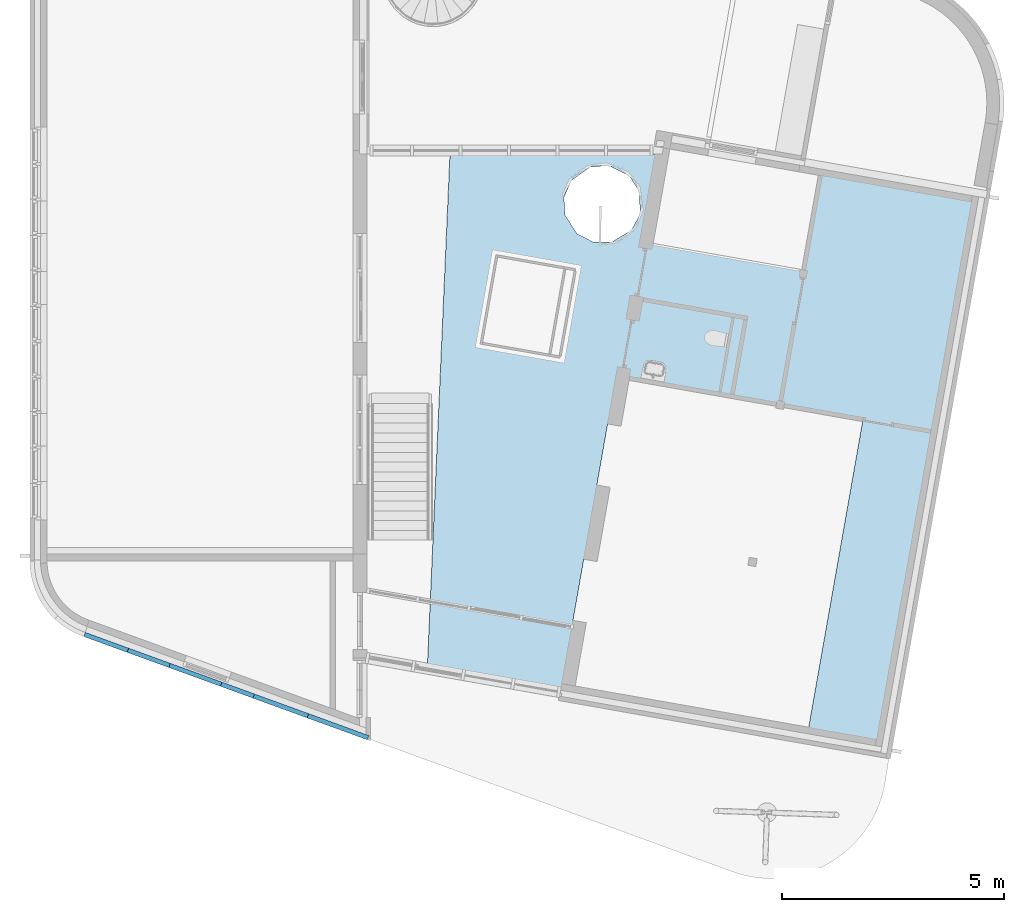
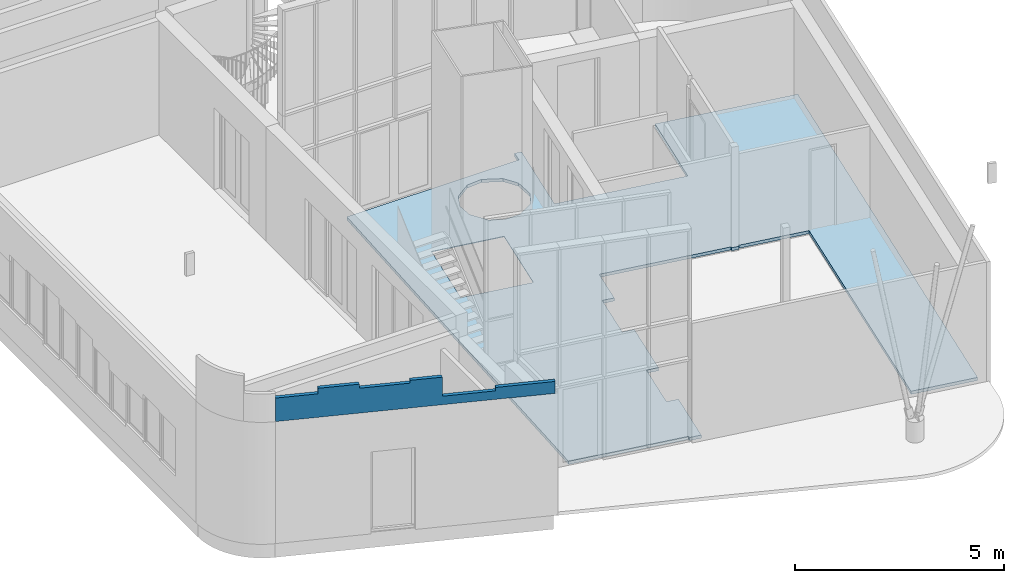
# One storey, part 15 of 21: 1 slab, 1 wall.
"""IFC2X3 building model written with IfcOpenShell, lengths in millimetres."""

import ifcopenshell
import ifcopenshell.guid

model = None  # the IFC model being written
_history = None  # IfcOwnerHistory: only IFC2X3 demands one
_inside = {}  # id of a spatial element -> (the spatial element, [elements in it])
_under = {}  # id of a project, library or spatial element -> (it, [spatial elements below it])
_declared = {}  # id of a project -> (the project, [libraries it declares])
_typed = {}  # id of a type object -> (the type object, [elements of that type])
_made_of = {}  # id of a material, layer set ... -> (it, [elements and type objects made of it])


def new_model(schema):
    """Start an empty IFC model of exactly this schema.

    Asked for "IFC4X3", IfcOpenShell would pick the latest addendum, in which some entities
    have other attributes; the version numbers below select the first issue.
    IFC2X3 requires an IfcOwnerHistory on every rooted entity: one is made here for all.
    """
    global model, _history
    if schema == "IFC4X3":
        model = ifcopenshell.file(schema_version=(4, 3, 0, 0))
    else:
        model = ifcopenshell.file(schema=schema)
    _inside.clear()
    _under.clear()
    _declared.clear()
    _typed.clear()
    _made_of.clear()
    _history = None
    if model.schema == "IFC2X3":
        org = make("IfcOrganization", Name="unknown")
        user = make(
            "IfcPersonAndOrganization",
            ThePerson=make("IfcPerson", FamilyName="unknown"),
            TheOrganization=org,
        )
        app = make(
            "IfcApplication",
            ApplicationDeveloper=org,
            Version="unknown",
            ApplicationFullName="unknown",
            ApplicationIdentifier="unknown",
        )
        _history = make(
            "IfcOwnerHistory",
            OwningUser=user,
            OwningApplication=app,
            ChangeAction="ADDED",
            CreationDate=0,
        )
    return model


def make(cls, **values):
    """One entity of the class cls with the attributes given. An attribute that is None is left unset."""
    return model.create_entity(
        cls, **{name: value for name, value in values.items() if value is not None}
    )


def entity(cls, *values):
    """Any entity or typed value of the class cls, its attributes in the order of the schema. None: left unset."""
    e = model.create_entity(cls)
    for i, value in enumerate(values):
        if value is not None:
            e[i] = value
    return e


def rooted(cls, **values):
    """An entity with a GlobalId (a new one), such as an element, a storey or a relation."""
    return make(cls, GlobalId=ifcopenshell.guid.new(), OwnerHistory=_history, **values)


def si_unit(unit_type, name, prefix=None):
    """IfcSIUnit, for example si_unit("LENGTHUNIT", "METRE", prefix="MILLI")."""
    return make("IfcSIUnit", UnitType=unit_type, Prefix=prefix, Name=name)


def converted_unit(unit_type, name, factor, base, dimensions=None, offset=None):
    """IfcConversionBasedUnit, such as the inch: factor (a typed value) times the base unit."""
    return make(
        "IfcConversionBasedUnit"
        if offset is None
        else "IfcConversionBasedUnitWithOffset",
        ConversionOffset=offset,
        Dimensions=None
        if dimensions is None
        else entity("IfcDimensionalExponents", *dimensions),
        UnitType=unit_type,
        Name=name,
        ConversionFactor=make(
            "IfcMeasureWithUnit", ValueComponent=factor, UnitComponent=base
        ),
    )


def derived_unit(unit_type, elements):
    """IfcDerivedUnit: a product of units, each with its exponent."""
    return make(
        "IfcDerivedUnit",
        Elements=[
            make("IfcDerivedUnitElement", Unit=unit, Exponent=power)
            for unit, power in elements
        ],
        UnitType=unit_type,
    )


def assignment(units):
    """IfcUnitAssignment: the units of a project."""
    return None if units is None else make("IfcUnitAssignment", Units=units)


def point(xyz):
    """IfcCartesianPoint."""
    return None if xyz is None else make("IfcCartesianPoint", Coordinates=xyz)


def direction(xyz):
    """IfcDirection."""
    return None if xyz is None else make("IfcDirection", DirectionRatios=xyz)


def frame(location, z_axis=None, x_axis=None):
    """IfcAxis2Placement3D, a coordinate frame: its origin and axes. An axis left out is left unset."""
    return make(
        "IfcAxis2Placement3D",
        Location=point(location),
        Axis=direction(z_axis),
        RefDirection=direction(x_axis),
    )


def origin():
    """The frame at (0, 0, 0) with its axes left unset."""
    return frame((0.0, 0.0, 0.0))


def place(relative_to, where):
    """IfcLocalPlacement: puts the frame where relative to a parent placement (None: the world)."""
    return make(
        "IfcLocalPlacement", PlacementRelTo=relative_to, RelativePlacement=where
    )


def context(
    kind, dimensions, precision=None, world=None, true_north=None, identifier=None
):
    """IfcGeometricRepresentationContext, for example the 3D "Model" context."""
    return make(
        "IfcGeometricRepresentationContext",
        ContextIdentifier=identifier,
        ContextType=kind,
        CoordinateSpaceDimension=dimensions,
        Precision=precision,
        WorldCoordinateSystem=world,
        TrueNorth=true_north,
    )


def subcontext(parent, identifier, kind, view, scale=None):
    """IfcGeometricRepresentationSubContext, for example "Body" below "Model"."""
    return make(
        "IfcGeometricRepresentationSubContext",
        ContextIdentifier=identifier,
        ContextType=kind,
        ParentContext=parent,
        TargetScale=scale,
        TargetView=view,
    )


def project(units=None, contexts=None):
    """IfcProject with its units and contexts."""
    return rooted(
        "IfcProject",
        Name="project",
        RepresentationContexts=contexts,
        UnitsInContext=assignment(units),
    )


def spatial(cls, under=None, at=None, **own):
    """A site, building, storey or space (cls), placed at a placement, below another one or the project."""
    s = rooted(cls, ObjectPlacement=at, **own)
    if under is not None:
        _under.setdefault(under.id(), (under, []))[1].append(s)
    return s


def faces_of(points, faces, orient=None, outer=None):
    """IfcFace entities. A face is a list of loops; a loop is a list of indices into points, from 0.

    orient and outer hold one flag for each loop. By default every Orientation is true, the
    first loop of a face is its IfcFaceOuterBound and the others are IfcFaceBound.
    """
    made = []
    for i, loops in enumerate(faces):
        bounds = []
        for j, loop in enumerate(loops):
            is_outer = j == 0 if outer is None else outer[i][j]
            bounds.append(
                make(
                    "IfcFaceOuterBound" if is_outer else "IfcFaceBound",
                    Bound=make("IfcPolyLoop", Polygon=[points[k] for k in loop]),
                    Orientation=True if orient is None else orient[i][j],
                )
            )
        made.append(make("IfcFace", Bounds=bounds))
    return made


def faceted_brep(points, faces, orient=None, outer=None, voids=None):
    """IfcFacetedBrep: a solid bounded by flat faces; with voids (closed shells), ...WithVoids."""
    shared = [point(p) for p in points]
    hull = make("IfcClosedShell", CfsFaces=faces_of(shared, faces, orient, outer))
    if voids is None:
        return make("IfcFacetedBrep", Outer=hull)
    return make(
        "IfcFacetedBrepWithVoids",
        Outer=hull,
        Voids=[
            make(cls, CfsFaces=faces_of(shared, fs, o, b)) for cls, fs, o, b in voids
        ],
    )


def shape(context_of_items, identifier, shape_type, items):
    """IfcShapeRepresentation: the items that make up one representation, for example the "Body"."""
    return make(
        "IfcShapeRepresentation",
        ContextOfItems=context_of_items,
        RepresentationIdentifier=identifier,
        RepresentationType=shape_type,
        Items=items,
    )


def material(Name=None, Category=None):
    """IfcMaterial."""
    return make("IfcMaterial", Name=Name, Category=Category)


def material_list(materials):
    """IfcMaterialList."""
    return make("IfcMaterialList", Materials=materials)


def layer(
    of_material, thickness, ventilated=None, Name=None, Category=None, Priority=None
):
    """IfcMaterialLayer: one layer of a wall or slab, of a material (None: an air gap)."""
    return make(
        "IfcMaterialLayer",
        Material=of_material,
        LayerThickness=thickness,
        IsVentilated=ventilated,
        Name=Name,
        Category=Category,
        Priority=Priority,
    )


def layer_set(layers, Name=None):
    """IfcMaterialLayerSet."""
    return make("IfcMaterialLayerSet", MaterialLayers=layers, LayerSetName=Name)


def made_of(thing, what):
    """Note that an element or type object is made of a material, layer set ...; save() writes the relation."""
    if what is not None:
        _made_of.setdefault(what.id(), (what, []))[1].append(thing)
    return thing


def type_object(cls, material=None, **own):
    """A type object (cls), such as IfcWallType, which elements share."""
    return made_of(rooted(cls, **own), material)


def element(
    cls,
    number,
    at=None,
    inside=None,
    cuts=None,
    type_object=None,
    material=None,
    context=None,
    identifier="Body",
    shape_type=None,
    held_by="IfcProductDefinitionShape",
    body=None,
    shapes=None,
    **own,
):
    """One element of the class cls, such as IfcWall. Its Tag is "e" and its number.

    at: its placement. inside: the storey or other place that contains it. cuts: it is an
    opening in that element (IfcRelVoidsElement). A single representation is given by context,
    identifier, shape_type and body (its items); several are given by shapes. held_by: the class
    of the entity that holds the representations. save() writes the other relations.
    """
    e = rooted(cls, Tag="e%d" % number, ObjectPlacement=at, **own)
    if body is not None:
        shapes = [shape(context, identifier, shape_type, body)]
    if shapes is not None:
        e.Representation = make(held_by, Representations=shapes)
    if inside is not None:
        _inside.setdefault(inside.id(), (inside, []))[1].append(e)
    if cuts is not None:
        rooted(
            "IfcRelVoidsElement", RelatingBuildingElement=cuts, RelatedOpeningElement=e
        )
    if type_object is not None:
        _typed.setdefault(type_object.id(), (type_object, []))[1].append(e)
    return made_of(e, material)


def aggregate(whole, parts):
    """IfcRelAggregates: a whole, such as a stair, and the parts it consists of."""
    return rooted("IfcRelAggregates", RelatingObject=whole, RelatedObjects=parts)


def save(model, path):
    """Write the relations noted so far, then the file.

    IfcRelAggregates (storeys below a building ...), IfcRelContainedInSpatialStructure (elements
    in a storey), IfcRelDefinesByType, IfcRelAssociatesMaterial and IfcRelDeclares: one each for
    every whole, place, type object, material and project.
    """
    for whole, parts in _under.values():
        aggregate(whole, parts)
    for where, things in _inside.values():
        rooted(
            "IfcRelContainedInSpatialStructure",
            RelatedElements=things,
            RelatingStructure=where,
        )
    for kind, things in _typed.values():
        rooted("IfcRelDefinesByType", RelatedObjects=things, RelatingType=kind)
    for what, things in _made_of.values():
        rooted("IfcRelAssociatesMaterial", RelatedObjects=things, RelatingMaterial=what)
    for by, libraries in _declared.values():
        rooted("IfcRelDeclares", RelatingContext=by, RelatedDefinitions=libraries)
    model.write(path)


model = new_model("IFC2X3")

# Units and contexts
model_context = context("Model", 3, precision=0.01, world=origin(), true_north=direction((6.12303176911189e-17, 1.0)))
body_context = subcontext(model_context, "Body", "Model", "MODEL_VIEW")
ifc_project = project(units=[si_unit("LENGTHUNIT", "METRE", prefix="MILLI"), si_unit("AREAUNIT", "SQUARE_METRE"), si_unit("VOLUMEUNIT", "CUBIC_METRE"), converted_unit("PLANEANGLEUNIT", "DEGREE", entity("IfcRatioMeasure", 0.0174532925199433), si_unit("PLANEANGLEUNIT", "RADIAN"), dimensions=[0, 0, 0, 0, 0, 0, 0]), si_unit("MASSUNIT", "GRAM", prefix="KILO"), derived_unit("MASSDENSITYUNIT", [(si_unit("MASSUNIT", "GRAM", prefix="KILO"), 1), (si_unit("LENGTHUNIT", "METRE"), -3)]), si_unit("TIMEUNIT", "SECOND"), si_unit("FREQUENCYUNIT", "HERTZ"), si_unit("THERMODYNAMICTEMPERATUREUNIT", "DEGREE_CELSIUS"), derived_unit("THERMALTRANSMITTANCEUNIT", [(si_unit("MASSUNIT", "GRAM", prefix="KILO"), 1), (si_unit("THERMODYNAMICTEMPERATUREUNIT", "KELVIN"), -1), (si_unit("TIMEUNIT", "SECOND"), -3)]), derived_unit("VOLUMETRICFLOWRATEUNIT", [(si_unit("LENGTHUNIT", "METRE"), 3), (si_unit("TIMEUNIT", "SECOND"), -1)]), si_unit("ELECTRICCURRENTUNIT", "AMPERE"), si_unit("ELECTRICVOLTAGEUNIT", "VOLT"), si_unit("POWERUNIT", "WATT"), si_unit("FORCEUNIT", "NEWTON", prefix="KILO"), si_unit("ILLUMINANCEUNIT", "LUX"), si_unit("LUMINOUSFLUXUNIT", "LUMEN"), si_unit("LUMINOUSINTENSITYUNIT", "CANDELA"), derived_unit("USERDEFINED", [(si_unit("MASSUNIT", "GRAM", prefix="KILO"), -1), (si_unit("LENGTHUNIT", "METRE"), -2), (si_unit("TIMEUNIT", "SECOND"), 3), (si_unit("LUMINOUSFLUXUNIT", "LUMEN"), 1)]), derived_unit("LINEARVELOCITYUNIT", [(si_unit("LENGTHUNIT", "METRE"), 1), (si_unit("TIMEUNIT", "SECOND"), -1)]), si_unit("PRESSUREUNIT", "PASCAL"), derived_unit("USERDEFINED", [(si_unit("LENGTHUNIT", "METRE"), -2), (si_unit("MASSUNIT", "GRAM", prefix="KILO"), 1), (si_unit("TIMEUNIT", "SECOND"), -2)])], contexts=[model_context])

# Site, building, storey
site_placement = place(None, origin())
site = spatial("IfcSite", under=ifc_project, at=site_placement, Name="<Kadaster Gemeente>;<Kadaster nummer>;<Kadaster sectie>", CompositionType="ELEMENT")
building_placement = place(site_placement, origin())
building = spatial("IfcBuilding", under=site, at=building_placement, Name="JRCZ Middelburg", CompositionType="ELEMENT")
storey_placement = place(building_placement, origin())
storey = spatial("IfcBuildingStorey", under=building, at=storey_placement, Name="00 begane grond", CompositionType="ELEMENT", Elevation=0.0)

# Slab
ifc_material_1 = material(Name="vloerafwerking pvc")
ifc_material_2 = material(Name="RBM_f2_beton_ihwg C20-25")
ifc_material_list = material_list([ifc_material_1, ifc_material_2])
slab_type = type_object("IfcSlabType", Name="Floor:RBM_23_FL_gewapende druklaag gevlinderd+ afwerking", PredefinedType="FLOOR")
slab_placement = place(storey_placement, origin())
element("IfcSlab", 1, at=slab_placement, inside=storey, type_object=slab_type, material=ifc_material_list, Name="Floor:RBM_23_FL_gewapende druklaag gevlinderd+ afwerking", ObjectType="Floor:RBM_23_FL_gewapende druklaag gevlinderd+ afwerking", PredefinedType="FLOOR", context=body_context, shape_type="Brep", body=[
    faceted_brep([(31170.5393751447, 18061.5483926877, -90.0), (27575.4701321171, 18692.409817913, -90.0), (27575.9910766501, 18695.364241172, -90.0), (27183.1571558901, 16467.4923682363, -90.0), (27174.3428417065, 16417.5039084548, -90.0), (28549.4626822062, 12986.5936175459, -90.0), (28982.0513920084, 5650.01628147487, -90.0), (27307.8782118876, 5945.21818350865, -90.0), (26770.8998802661, 13300.2022264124, -90.0), (26593.6344847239, 13331.4588983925, -90.0), (26763.9539531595, 13260.8099162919, -90.0), (26586.6885576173, 13292.066588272, -90.0), (23825.996481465, 17007.9077125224, -90.0), (23280.7412035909, 13915.611368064, -90.0), (22213.537046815, 16514.1092138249, -90.0), (21822.8286470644, 14298.2917695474, -90.0), (22797.0594446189, 12934.6995697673, -90.0), (23098.4106170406, 12881.5632274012, -90.0), (22553.9519958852, 11555.9687155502, -90.0), (19803.9727533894, 14654.2705337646, -90.0), (22258.7500938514, 9881.79553542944, -90.0), (22560.1012662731, 9828.65919306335, -90.0), (22855.3031683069, 11502.8323731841, -90.0), (18732.6630344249, 7515.13930155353, -90.0), (22015.6426451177, 8503.06468121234, -90.0), (21747.7035069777, 6983.50631831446, -90.0), (22316.9938175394, 8449.92833884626, -90.0), (22039.1567332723, 6874.23593402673, -90.0), (21737.8055608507, 6927.37227639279, -90.0), (19241.0071984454, 19027.6233878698, -90.0), (20194.68115314, 16870.0879780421, -90.0), (21812.6302715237, 18046.2922420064, -90.0), (21896.1543212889, 18236.875910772, -90.0), (21979.6783710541, 18427.4595795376, -90.0), (22190.1416612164, 18577.9136267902, -90.0), (22400.6049513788, 18728.3676740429, -90.0), (24005.3772465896, 19027.6233878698, -90.0), (22607.962298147, 18745.7266034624, -90.0), (22815.3196449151, 18763.0855328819, -90.0), (23047.868746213, 18649.7182874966, -90.0), (23280.4178475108, 18536.3510421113, -90.0), (23394.4667055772, 18362.3071980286, -90.0), (23508.5155636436, 18188.263353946, -90.0), (23519.6282285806, 17929.7914492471, -90.0), (23530.7408935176, 17671.3195445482, -90.0), (23834.8107956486, 17057.8961723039, -90.0), (24227.1237718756, 19282.8136219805, -90.0), (24178.631456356, 19291.3641255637, -90.0), (24047.8035144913, 19314.432621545, -90.0), (23333.3608145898, 17304.9389893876, -90.0), (23432.0508540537, 17488.1292669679, -90.0), (21824.3250493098, 17844.1892356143, -90.0), (21836.019827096, 17642.0862292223, -90.0), (21974.0136636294, 17431.5012380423, -90.0), (22112.0075001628, 17220.9162468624, -90.0), (22292.6412812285, 17129.5169571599, -90.0), (22473.2750622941, 17038.1176674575, -90.0), (22681.3571358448, 17038.6200181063, -90.0), (22889.4392093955, 17039.1223687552, -90.0), (23111.4000119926, 17172.0306790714, -90.0), (22553.9519958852, 11555.9687155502, 0.0), (22560.1012662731, 9828.65919306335, 0.0), (22855.3031683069, 11502.8323731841, 0.0), (22258.7500938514, 9881.79553542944, 0.0), (19919.8183464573, 14735.3864912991, 0.0), (21741.7126895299, 14414.1373626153, 0.0), (22797.0594446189, 12934.6995697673, 0.0), (23280.7412035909, 13915.611368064, 0.0), (23098.4106170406, 12881.5632274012, 0.0), (22097.6914537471, 16432.9932562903, 0.0), (23825.996481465, 17007.9077125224, 0.0), (26593.6344847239, 13331.4588983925, 0.0), (27174.3428417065, 16417.5039084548, 0.0), (26770.8998802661, 13300.2022264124, 0.0), (26763.9539531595, 13260.8099162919, 0.0), (26586.6885576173, 13292.066588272, 0.0), (28549.4626822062, 12986.5936175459, 0.0), (31170.5393751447, 18061.5483926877, 0.0), (28982.0513920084, 5650.01628147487, 0.0), (27307.8782118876, 5945.21818350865, 0.0), (27575.9910766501, 18695.364241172, 0.0), (22889.4392093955, 17039.1223687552, 0.0), (23111.4000119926, 17172.0306790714, 0.0), (23333.3608145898, 17304.9389893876, 0.0), (23432.0508540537, 17488.1292669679, 0.0), (23530.7408935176, 17671.3195445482, 0.0), (24005.3772465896, 19027.6233878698, 0.0), (24227.1237718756, 19282.8136219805, 0.0), (24047.8035144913, 19314.432621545, 0.0), (23519.6282285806, 17929.7914492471, 0.0), (23508.5155636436, 18188.263353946, 0.0), (23394.4667055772, 18362.3071980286, 0.0), (23280.4178475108, 18536.3510421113, 0.0), (23047.868746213, 18649.7182874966, 0.0), (22815.3196449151, 18763.0855328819, 0.0), (22607.962298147, 18745.7266034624, 0.0), (22400.6049513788, 18728.3676740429, 0.0), (19241.0071984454, 19027.6233878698, 0.0), (18732.6630344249, 7515.13930155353, 0.0), (20275.7971106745, 16754.2423849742, 0.0), (21812.6302715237, 18046.2922420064, 0.0), (21915.5886631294, 18281.2208411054, 0.0), (22190.1416612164, 18577.9136267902, 0.0), (21979.6783710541, 18427.4595795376, 0.0), (22015.6426451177, 8503.06468121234, 0.0), (21747.7035069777, 6983.50631831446, 0.0), (22316.9938175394, 8449.92833884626, 0.0), (22039.1567332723, 6874.23593402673, 0.0), (21737.8055608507, 6927.37227639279, 0.0), (22681.3571358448, 17038.6200181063, 0.0), (22473.2750622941, 17038.1176674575, 0.0), (22244.2874557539, 17153.9836171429, 0.0), (22112.0075001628, 17220.9162468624, 0.0), (21974.0136636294, 17431.5012380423, 0.0), (21836.019827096, 17642.0862292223, 0.0), (21824.3250493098, 17844.1892356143, 0.0), (24227.1237718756, 19282.8136219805, -50.0), (23825.996481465, 17007.9077125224, -50.0), (20275.7971106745, 16754.2423849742, -20.0), (22097.6914537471, 16432.9932562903, -20.0), (19919.8183464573, 14735.3864912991, -20.0), (21741.7126895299, 14414.1373626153, -20.0), (22213.537046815, 16514.1092138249, -20.0), (21822.8286470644, 14298.2917695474, -20.0), (20194.68115314, 16870.0879780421, -20.0), (19803.9727533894, 14654.2705337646, -20.0), (27174.3428417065, 16417.5039084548, -50.0)], [[[0, 1, 2]], [[1, 0, 3]], [[4, 3, 0]], [[0, 5, 4]], [[5, 0, 6]], [[7, 5, 6]], [[8, 4, 5]], [[9, 4, 8]], [[8, 10, 9]], [[11, 9, 10]], [[9, 12, 4]], [[13, 12, 9]], [[12, 13, 14]], [[15, 14, 13]], [[15, 13, 16]], [[13, 17, 16]], [[15, 16, 18]], [[15, 18, 19]], [[18, 20, 19]], [[20, 18, 21]], [[18, 22, 21]], [[20, 23, 19]], [[20, 24, 23]], [[25, 23, 24]], [[26, 25, 24]], [[26, 27, 25]], [[28, 25, 27]], [[19, 23, 29]], [[30, 19, 29]], [[29, 31, 30]], [[29, 32, 31]], [[29, 33, 32]], [[29, 34, 33]], [[29, 35, 34]], [[36, 35, 29]], [[36, 37, 35]], [[36, 38, 37]], [[36, 39, 38]], [[36, 40, 39]], [[36, 41, 40]], [[36, 42, 41]], [[36, 43, 42]], [[36, 44, 43]], [[36, 45, 44]], [[36, 46, 45]], [[47, 46, 36]], [[48, 47, 36]], [[45, 12, 49]], [[45, 49, 50]], [[45, 50, 44]], [[30, 31, 51]], [[30, 51, 52]], [[30, 52, 53]], [[30, 53, 54]], [[14, 54, 55]], [[14, 30, 54]], [[14, 55, 56]], [[14, 56, 57]], [[14, 57, 58]], [[58, 12, 14]], [[12, 58, 59]], [[12, 59, 49]], [[60, 61, 62]], [[60, 63, 61]], [[60, 64, 63]], [[64, 60, 65]], [[60, 66, 65]], [[66, 67, 65]], [[67, 66, 68]], [[69, 65, 67]], [[70, 69, 67]], [[70, 67, 71]], [[70, 71, 72]], [[72, 71, 73]], [[74, 73, 71]], [[71, 75, 74]], [[73, 76, 72]], [[72, 76, 77]], [[78, 77, 76]], [[79, 78, 76]], [[80, 72, 77]], [[81, 69, 70]], [[70, 82, 81]], [[70, 83, 82]], [[70, 84, 83]], [[70, 85, 84]], [[86, 85, 70]], [[70, 87, 86]], [[88, 86, 87]], [[86, 89, 85]], [[86, 90, 89]], [[86, 91, 90]], [[86, 92, 91]], [[86, 93, 92]], [[86, 94, 93]], [[86, 95, 94]], [[86, 96, 95]], [[97, 96, 86]], [[98, 64, 97]], [[99, 97, 64]], [[100, 97, 99]], [[97, 100, 101]], [[97, 102, 96]], [[97, 103, 102]], [[97, 101, 103]], [[104, 63, 98]], [[98, 105, 104]], [[64, 98, 63]], [[105, 106, 104]], [[106, 105, 107]], [[105, 108, 107]], [[69, 81, 109]], [[69, 109, 110]], [[69, 110, 111]], [[69, 111, 112]], [[69, 112, 99]], [[99, 112, 113]], [[99, 113, 114]], [[99, 114, 115]], [[99, 115, 100]], [[6, 0, 77, 78]], [[29, 23, 98, 97]], [[36, 29, 97, 86]], [[48, 36, 86, 88]], [[47, 48, 88, 87, 116, 46]], [[52, 51, 31, 100, 115, 114]], [[53, 52, 114, 113, 112, 54]], [[110, 56, 55, 54, 112, 111]], [[58, 57, 56, 110, 109, 81]], [[43, 44, 85, 89, 90, 42]], [[82, 83, 49, 59, 58, 81]], [[44, 50, 49, 83, 84, 85]], [[91, 92, 40, 41, 42, 90]], [[38, 39, 40, 92, 93, 94]], [[102, 103, 33, 34, 35, 96]], [[100, 31, 32, 33, 103, 101]], [[35, 37, 38, 94, 95, 96]], [[7, 6, 78, 79]], [[28, 27, 107, 108]], [[5, 7, 79, 76]], [[8, 5, 76, 73]], [[13, 9, 71, 67]], [[10, 8, 73, 74]], [[11, 10, 74, 75]], [[9, 11, 75, 71]], [[17, 13, 67, 68]], [[21, 22, 62, 61]], [[27, 26, 106, 107]], [[45, 46, 116, 87, 70, 117, 12]], [[16, 17, 68, 66]], [[18, 16, 66, 60]], [[24, 20, 63, 104]], [[22, 18, 60, 62]], [[20, 21, 61, 63]], [[26, 24, 104, 106]], [[25, 28, 108, 105]], [[23, 25, 105, 98]], [[118, 119, 69, 99]], [[120, 118, 99, 64]], [[121, 120, 64, 65]], [[119, 121, 65, 69]], [[121, 119, 122]], [[122, 123, 121]], [[120, 121, 123]], [[118, 122, 119]], [[120, 124, 118]], [[122, 118, 124]], [[124, 120, 125]], [[123, 125, 120]], [[122, 124, 30, 14]], [[123, 122, 14, 15]], [[123, 15, 19, 125]], [[124, 125, 19, 30]], [[126, 4, 12, 117, 70, 72]], [[2, 1, 3, 4, 126, 72, 80]], [[0, 2, 80, 77]]]),
])

# Wall
ifc_material_3 = material(Name="hout_accoya_schubben")
ifc_layer_1 = layer(ifc_material_3, 30.0)
ifc_material_4 = material(Name="hout_vuren_regel")
ifc_layer_2 = layer(ifc_material_4, 35.0)
ifc_layer_3 = layer(ifc_material_4, 35.0)
ifc_layer_set = layer_set([ifc_layer_1, ifc_layer_2, ifc_layer_3], Name="Basic Wall:RBM_21_WA_gevelbekleding op regelwerk_100mm")
wall_type = type_object("IfcWallType", Name="Basic Wall:RBM_21_WA_gevelbekleding op regelwerk_100mm", PredefinedType="STANDARD", material=ifc_layer_set)
wall_placement = place(storey_placement, frame((17394.0, 5855.68806918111, 3500.0), z_axis=(0.0, 0.0, 1.0), x_axis=(-0.939692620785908, 0.342020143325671, 0.0)))
element("IfcWall", 2, at=wall_placement, inside=storey, type_object=wall_type, Name="Basic Wall:RBM_21_WA_gevelbekleding op regelwerk_100mm", ObjectType="Basic Wall:RBM_21_WA_gevelbekleding op regelwerk_100mm", context=body_context, shape_type="Brep", body=[
    faceted_brep([(0.0, -50.0, 0.0), (6807.51479893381, -50.0, 0.0), (6807.51479893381, -50.0, 687.981832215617), (5767.55792193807, -50.0, 687.981832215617), (5767.55792193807, -50.0, 847.981832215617), (4767.55792193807, -50.0, 847.981832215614), (4767.55792193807, -50.0, 727.981832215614), (3527.55792193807, -50.0, 727.981832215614), (3527.55792193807, -50.0, 807.981832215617), (2747.55792193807, -50.0, 807.981832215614), (2747.55792193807, -50.0, 247.981832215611), (1447.55792193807, -50.0, 247.981832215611), (1447.55792193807, -50.0, 347.981832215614), (0.0, -50.0, 347.981832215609), (0.0, 50.0, 0.0), (0.0, 50.0, 347.981832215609), (1447.55792193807, 50.0, 347.981832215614), (1447.55792193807, 50.0, 247.981832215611), (2747.55792193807, 50.0, 247.981832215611), (2747.55792193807, 50.0, 807.981832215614), (3527.55792193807, 50.0, 807.981832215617), (3527.55792193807, 50.0, 727.981832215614), (4767.55792193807, 50.0, 727.981832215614), (4767.55792193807, 50.0, 847.981832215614), (5767.55792193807, 50.0, 847.981832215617), (5767.55792193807, 50.0, 687.981832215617), (6806.69551079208, 50.0, 687.981832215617), (6806.69551079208, 50.0, 0.0)], [[[0, 1, 2, 3, 4, 5, 6, 7, 8, 9, 10, 11, 12, 13]], [[14, 15, 16, 17, 18, 19, 20, 21, 22, 23, 24, 25, 26, 27]], [[1, 0, 14, 27]], [[0, 13, 15, 14]], [[3, 2, 26, 25]], [[4, 3, 25, 24]], [[5, 4, 24, 23]], [[6, 5, 23, 22]], [[7, 6, 22, 21]], [[8, 7, 21, 20]], [[9, 8, 20, 19]], [[10, 9, 19, 18]], [[11, 10, 18, 17]], [[12, 11, 17, 16]], [[13, 12, 16, 15]], [[2, 1, 27, 26]]]),
])

save(model, "model.ifc")
